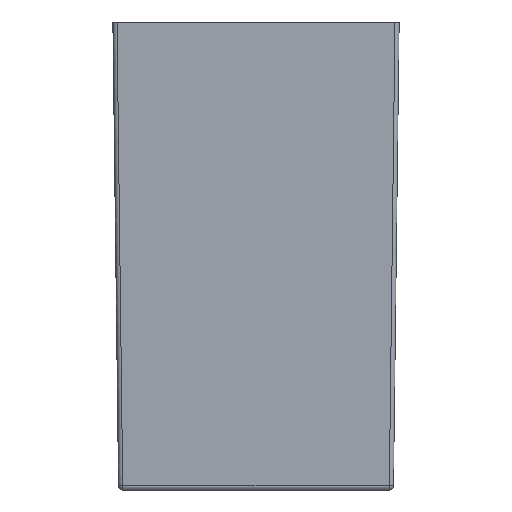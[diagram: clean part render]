
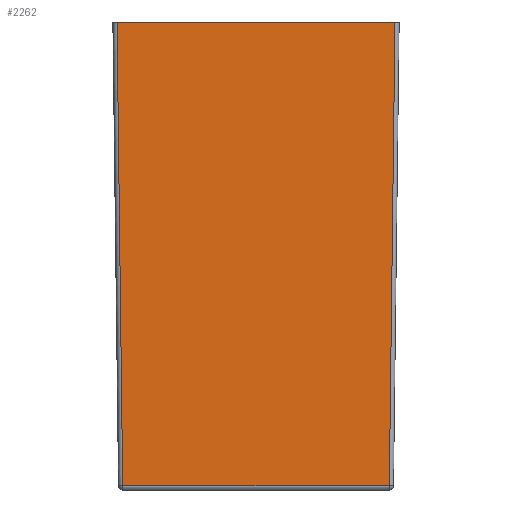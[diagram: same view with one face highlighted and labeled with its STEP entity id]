
A CAD part, front view. The second image highlights one B-rep face of the part: STEP entity #2262.
In plain terms, the highlighted planar face has unit normal (0, -1, -0.012).
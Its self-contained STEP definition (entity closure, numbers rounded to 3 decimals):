
#56 = ORIENTED_EDGE ( 'NONE', *, *, #477, .T. ) ;
#110 = LINE ( 'NONE', #2403, #2116 ) ;
#149 = DIRECTION ( 'NONE',  ( 1., 0., 0. ) ) ;
#164 = ORIENTED_EDGE ( 'NONE', *, *, #1262, .F. ) ;
#372 = CARTESIAN_POINT ( 'NONE',  ( 23.393, -24.093, -0.58 ) ) ;
#477 = EDGE_CURVE ( 'NONE', #3095, #747, #2206, .T. ) ;
#526 = FACE_OUTER_BOUND ( 'NONE', #1555, .T. ) ;
#665 = DIRECTION ( 'NONE',  ( 0.012, -0.012, 1. ) ) ;
#747 = VERTEX_POINT ( 'NONE', #2873 ) ;
#838 = DIRECTION ( 'NONE',  ( 0., 0.012, -1. ) ) ;
#885 = VERTEX_POINT ( 'NONE', #2993 ) ;
#1214 = VECTOR ( 'NONE', #1580, 1000. ) ;
#1262 = EDGE_CURVE ( 'NONE', #3095, #2625, #1889, .T. ) ;
#1310 = CARTESIAN_POINT ( 'NONE',  ( -24.1, -24.1, 0. ) ) ;
#1507 = LINE ( 'NONE', #372, #2176 ) ;
#1555 = EDGE_LOOP ( 'NONE', ( #164, #56, #2333, #2248 ) ) ;
#1557 = CARTESIAN_POINT ( 'NONE',  ( -23.4, -24.1, 0.009 ) ) ;
#1580 = DIRECTION ( 'NONE',  ( 1., 0., 0. ) ) ;
#1633 = AXIS2_PLACEMENT_3D ( 'NONE', #3112, #2856, #838 ) ;
#1889 = LINE ( 'NONE', #1310, #1214 ) ;
#2089 = PLANE ( 'NONE',  #1633 ) ;
#2116 = VECTOR ( 'NONE', #149, 1000. ) ;
#2176 = VECTOR ( 'NONE', #665, 1000. ) ;
#2198 = EDGE_CURVE ( 'NONE', #747, #885, #110, .T. ) ;
#2206 = LINE ( 'NONE', #1557, #2555 ) ;
#2248 = ORIENTED_EDGE ( 'NONE', *, *, #3124, .T. ) ;
#2262 = ADVANCED_FACE ( 'NONE', ( #526 ), #2089, .T. ) ;
#2333 = ORIENTED_EDGE ( 'NONE', *, *, #2198, .T. ) ;
#2403 = CARTESIAN_POINT ( 'NONE',  ( 23.137, -23.146, -78.109 ) ) ;
#2555 = VECTOR ( 'NONE', #3115, 1000. ) ;
#2625 = VERTEX_POINT ( 'NONE', #2699 ) ;
#2699 = CARTESIAN_POINT ( 'NONE',  ( 23.4, -24.1, 0. ) ) ;
#2856 = DIRECTION ( 'NONE',  ( 0., -1., -0.012 ) ) ;
#2873 = CARTESIAN_POINT ( 'NONE',  ( -22.446, -23.146, -78.109 ) ) ;
#2993 = CARTESIAN_POINT ( 'NONE',  ( 22.446, -23.146, -78.109 ) ) ;
#3049 = CARTESIAN_POINT ( 'NONE',  ( -23.4, -24.1, 0. ) ) ;
#3095 = VERTEX_POINT ( 'NONE', #3049 ) ;
#3112 = CARTESIAN_POINT ( 'NONE',  ( -24.1, -24.1, 0. ) ) ;
#3115 = DIRECTION ( 'NONE',  ( 0.012, 0.012, -1. ) ) ;
#3124 = EDGE_CURVE ( 'NONE', #885, #2625, #1507, .T. ) ;
